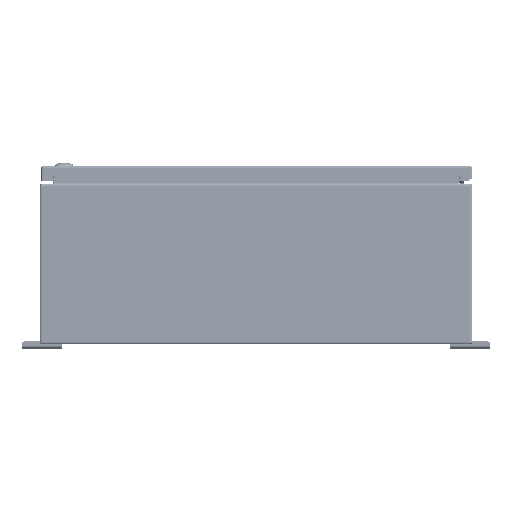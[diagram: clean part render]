
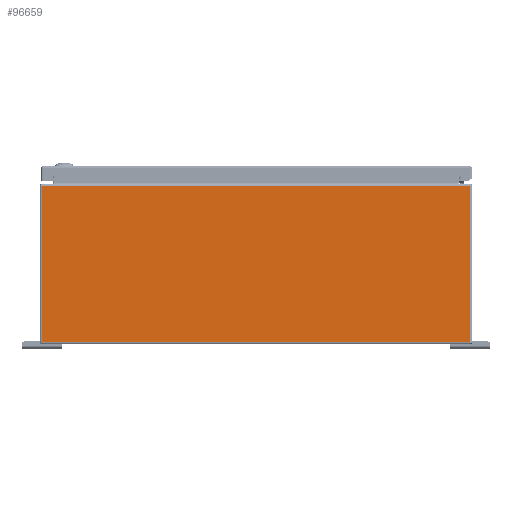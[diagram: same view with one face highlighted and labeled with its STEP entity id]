
A CAD part, left-side view. The second image highlights one B-rep face of the part: STEP entity #96659.
In plain terms, the highlighted planar face has unit normal (-1, 0, 0).
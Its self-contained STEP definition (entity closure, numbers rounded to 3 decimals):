
#5586=PLANE('',#103708);
#8128=LINE('',#138481,#15718);
#8129=LINE('',#138485,#15719);
#8130=LINE('',#138487,#15720);
#8131=LINE('',#138489,#15721);
#8132=LINE('',#138491,#15722);
#8133=LINE('',#138492,#15723);
#15718=VECTOR('',#112891,0.394);
#15719=VECTOR('',#112896,0.394);
#15720=VECTOR('',#112897,0.394);
#15721=VECTOR('',#112898,0.394);
#15722=VECTOR('',#112899,0.394);
#15723=VECTOR('',#112900,0.394);
#24838=FACE_OUTER_BOUND('',#30660,.T.);
#30660=EDGE_LOOP('',(#65751,#65752,#65753,#65754,#65755,#65756));
#41031=VERTEX_POINT('',#138463);
#41038=VERTEX_POINT('',#138480);
#41039=VERTEX_POINT('',#138484);
#41040=VERTEX_POINT('',#138486);
#41041=VERTEX_POINT('',#138488);
#41042=VERTEX_POINT('',#138490);
#50644=EDGE_CURVE('',#41031,#41038,#8128,.T.);
#50646=EDGE_CURVE('',#41039,#41031,#8129,.T.);
#50647=EDGE_CURVE('',#41039,#41040,#8130,.T.);
#50648=EDGE_CURVE('',#41041,#41040,#8131,.T.);
#50649=EDGE_CURVE('',#41042,#41041,#8132,.T.);
#50650=EDGE_CURVE('',#41042,#41038,#8133,.T.);
#65751=ORIENTED_EDGE('',*,*,#50646,.F.);
#65752=ORIENTED_EDGE('',*,*,#50647,.T.);
#65753=ORIENTED_EDGE('',*,*,#50648,.F.);
#65754=ORIENTED_EDGE('',*,*,#50649,.F.);
#65755=ORIENTED_EDGE('',*,*,#50650,.T.);
#65756=ORIENTED_EDGE('',*,*,#50644,.F.);
#96659=ADVANCED_FACE('',(#24838),#5586,.F.);
#103708=AXIS2_PLACEMENT_3D('',#138483,#112894,#112895);
#112891=DIRECTION('',(0.,0.,-1.));
#112894=DIRECTION('center_axis',(1.,0.,0.));
#112895=DIRECTION('ref_axis',(0.,0.,-1.));
#112896=DIRECTION('',(0.,-1.,0.));
#112897=DIRECTION('',(0.,1.,0.));
#112898=DIRECTION('',(0.,-1.,0.));
#112899=DIRECTION('',(0.,0.,1.));
#112900=DIRECTION('',(0.,-1.,0.));
#138463=CARTESIAN_POINT('',(-24.,-13.401,9.901));
#138480=CARTESIAN_POINT('',(-24.,-13.401,0.099));
#138481=CARTESIAN_POINT('',(-24.,-13.401,5.));
#138483=CARTESIAN_POINT('Origin',(-24.,0.,5.));
#138484=CARTESIAN_POINT('',(-24.,-12.626,9.901));
#138485=CARTESIAN_POINT('',(-24.,-6.725,9.901));
#138486=CARTESIAN_POINT('',(-24.,12.626,9.901));
#138487=CARTESIAN_POINT('',(-24.,6.705,9.901));
#138488=CARTESIAN_POINT('',(-24.,13.401,9.901));
#138489=CARTESIAN_POINT('',(-24.,-6.725,9.901));
#138490=CARTESIAN_POINT('',(-24.,13.401,0.099));
#138491=CARTESIAN_POINT('',(-24.,13.401,5.));
#138492=CARTESIAN_POINT('',(-24.,6.75,0.099));
